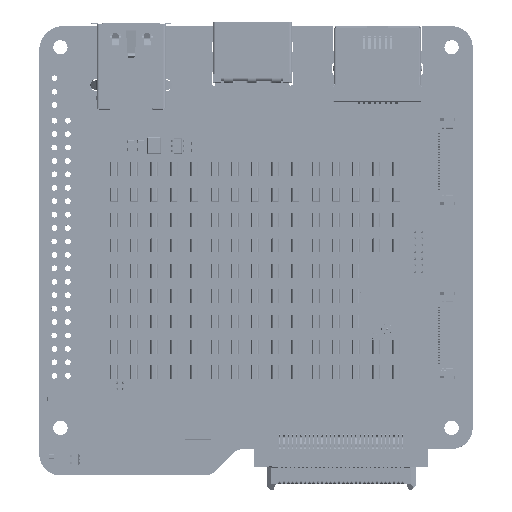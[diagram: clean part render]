
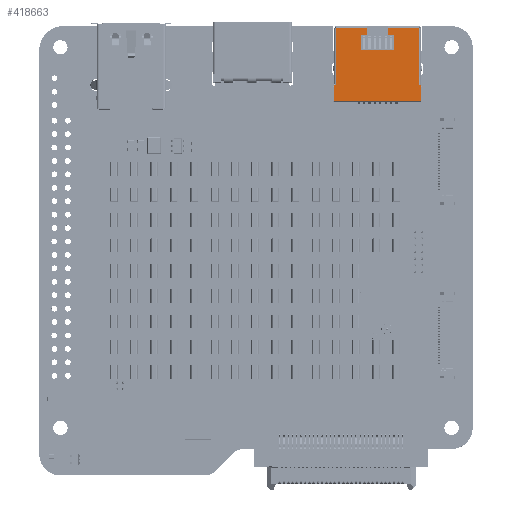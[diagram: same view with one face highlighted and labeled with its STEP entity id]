
A CAD part, top view. The second image highlights one B-rep face of the part: STEP entity #418663.
In plain terms, the highlighted planar face has unit normal (0, 0, 1).
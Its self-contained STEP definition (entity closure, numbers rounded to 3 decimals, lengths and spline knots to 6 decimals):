
#35980=LINE('',#677098,#79649);
#35984=LINE('',#677107,#79653);
#35987=LINE('',#677113,#79656);
#35990=LINE('',#677119,#79659);
#35993=LINE('',#677125,#79662);
#36129=LINE('',#677598,#79798);
#36134=LINE('',#677610,#79803);
#36347=LINE('',#678216,#80016);
#36355=LINE('',#678263,#80024);
#36371=LINE('',#678300,#80040);
#36378=LINE('',#678342,#80047);
#36394=LINE('',#678379,#80063);
#36410=LINE('',#678400,#80079);
#36411=LINE('',#678404,#80080);
#36413=LINE('',#678408,#80082);
#36415=LINE('',#678412,#80084);
#36416=LINE('',#678413,#80085);
#36417=LINE('',#678414,#80086);
#79649=VECTOR('',#551161,1.);
#79653=VECTOR('',#551167,1.);
#79656=VECTOR('',#551172,1.);
#79659=VECTOR('',#551177,1.);
#79662=VECTOR('',#551182,1.);
#79798=VECTOR('',#551634,1.);
#79803=VECTOR('',#551645,1.);
#80016=VECTOR('',#552214,1.);
#80024=VECTOR('',#552238,1.);
#80040=VECTOR('',#552274,1.);
#80047=VECTOR('',#552289,1.);
#80063=VECTOR('',#552325,1.);
#80079=VECTOR('',#552347,1.);
#80080=VECTOR('',#552354,1.);
#80082=VECTOR('',#552360,1.);
#80084=VECTOR('',#552366,1.);
#80085=VECTOR('',#552367,1.);
#80086=VECTOR('',#552368,1.);
#112247=PLANE('',#479691);
#174287=ORIENTED_EDGE('',*,*,#271387,.F.);
#174288=ORIENTED_EDGE('',*,*,#271142,.F.);
#174289=ORIENTED_EDGE('',*,*,#271146,.F.);
#174290=ORIENTED_EDGE('',*,*,#271149,.F.);
#174291=ORIENTED_EDGE('',*,*,#271152,.F.);
#174292=ORIENTED_EDGE('',*,*,#271155,.F.);
#174293=ORIENTED_EDGE('',*,*,#271380,.F.);
#174294=ORIENTED_EDGE('',*,*,#271754,.T.);
#174295=ORIENTED_EDGE('',*,*,#271718,.T.);
#174296=ORIENTED_EDGE('',*,*,#271752,.T.);
#174297=ORIENTED_EDGE('',*,*,#271736,.T.);
#174298=ORIENTED_EDGE('',*,*,#271759,.T.);
#174299=ORIENTED_EDGE('',*,*,#271675,.T.);
#174300=ORIENTED_EDGE('',*,*,#271760,.T.);
#174301=ORIENTED_EDGE('',*,*,#271707,.F.);
#174302=ORIENTED_EDGE('',*,*,#271757,.F.);
#174303=ORIENTED_EDGE('',*,*,#271689,.F.);
#174304=ORIENTED_EDGE('',*,*,#271761,.T.);
#271142=EDGE_CURVE('',#324678,#324679,#35980,.T.);
#271146=EDGE_CURVE('',#324682,#324678,#35984,.T.);
#271149=EDGE_CURVE('',#324684,#324682,#35987,.T.);
#271152=EDGE_CURVE('',#324686,#324684,#35990,.T.);
#271155=EDGE_CURVE('',#324688,#324686,#35993,.T.);
#271380=EDGE_CURVE('',#324867,#324688,#36129,.T.);
#271387=EDGE_CURVE('',#324679,#324872,#36134,.T.);
#271675=EDGE_CURVE('',#325039,#325040,#36347,.T.);
#271689=EDGE_CURVE('',#325048,#325049,#36355,.T.);
#271707=EDGE_CURVE('',#325058,#325059,#36371,.T.);
#271718=EDGE_CURVE('',#325068,#325069,#36378,.T.);
#271736=EDGE_CURVE('',#325079,#325078,#36394,.T.);
#271752=EDGE_CURVE('',#325069,#325079,#36410,.T.);
#271754=EDGE_CURVE('',#324867,#325068,#36411,.T.);
#271757=EDGE_CURVE('',#325049,#325058,#36413,.T.);
#271759=EDGE_CURVE('',#325078,#325039,#36415,.T.);
#271760=EDGE_CURVE('',#325040,#325059,#36416,.T.);
#271761=EDGE_CURVE('',#325048,#324872,#36417,.T.);
#324678=VERTEX_POINT('',#677097);
#324679=VERTEX_POINT('',#677099);
#324682=VERTEX_POINT('',#677106);
#324684=VERTEX_POINT('',#677112);
#324686=VERTEX_POINT('',#677118);
#324688=VERTEX_POINT('',#677124);
#324867=VERTEX_POINT('',#677597);
#324872=VERTEX_POINT('',#677611);
#325039=VERTEX_POINT('',#678217);
#325040=VERTEX_POINT('',#678218);
#325048=VERTEX_POINT('',#678264);
#325049=VERTEX_POINT('',#678265);
#325058=VERTEX_POINT('',#678299);
#325059=VERTEX_POINT('',#678301);
#325068=VERTEX_POINT('',#678343);
#325069=VERTEX_POINT('',#678344);
#325078=VERTEX_POINT('',#678378);
#325079=VERTEX_POINT('',#678380);
#371378=EDGE_LOOP('',(#174287,#174288,#174289,#174290,#174291,#174292,#174293,
#174294,#174295,#174296,#174297,#174298,#174299,#174300,#174301,#174302,
#174303,#174304));
#395242=FACE_BOUND('',#371378,.T.);
#418663=ADVANCED_FACE('',(#395242),#112247,.T.);
#479691=AXIS2_PLACEMENT_3D('',#678411,#552364,#552365);
#551161=DIRECTION('',(1.,0.,0.));
#551167=DIRECTION('',(0.,-1.,0.));
#551172=DIRECTION('',(-1.,0.,0.));
#551177=DIRECTION('',(0.,1.,0.));
#551182=DIRECTION('',(1.,0.,0.));
#551634=DIRECTION('',(0.,1.,0.));
#551645=DIRECTION('',(0.,-1.,0.));
#552214=DIRECTION('',(-1.,0.,0.));
#552238=DIRECTION('',(0.,1.,0.));
#552274=DIRECTION('',(-1.,0.,0.));
#552289=DIRECTION('',(0.,1.,0.));
#552325=DIRECTION('',(1.,0.,0.));
#552347=DIRECTION('',(0.,1.,0.));
#552354=DIRECTION('',(1.,0.,0.));
#552360=DIRECTION('',(0.,1.,0.));
#552364=DIRECTION('',(0.,0.,1.));
#552365=DIRECTION('',(1.,0.,0.));
#552366=DIRECTION('',(0.,1.,0.));
#552367=DIRECTION('',(0.,-1.,0.));
#552368=DIRECTION('',(1.,0.,0.));
#677097=CARTESIAN_POINT('',(-0.00315,-0.00545,0.008775));
#677098=CARTESIAN_POINT('',(-0.00315,-0.00545,0.008775));
#677099=CARTESIAN_POINT('',(-0.002,-0.00545,0.008775));
#677106=CARTESIAN_POINT('',(-0.00315,-0.00267,0.008775));
#677107=CARTESIAN_POINT('',(-0.00315,-0.00267,0.008775));
#677112=CARTESIAN_POINT('',(0.00315,-0.00267,0.008775));
#677113=CARTESIAN_POINT('',(0.00315,-0.00267,0.008775));
#677118=CARTESIAN_POINT('',(0.00315,-0.00545,0.008775));
#677119=CARTESIAN_POINT('',(0.00315,-0.00545,0.008775));
#677124=CARTESIAN_POINT('',(0.002,-0.00545,0.008775));
#677125=CARTESIAN_POINT('',(0.002,-0.00545,0.008775));
#677597=CARTESIAN_POINT('',(0.002,-0.00689,0.008775));
#677598=CARTESIAN_POINT('',(0.002,-0.00689,0.008775));
#677610=CARTESIAN_POINT('',(-0.002,-0.00545,0.008775));
#677611=CARTESIAN_POINT('',(-0.002,-0.00689,0.008775));
#678216=CARTESIAN_POINT('',(0.00815,0.00689,0.008775));
#678217=CARTESIAN_POINT('',(0.00815,0.00689,0.008775));
#678218=CARTESIAN_POINT('',(-0.00815,0.00689,0.008775));
#678263=CARTESIAN_POINT('',(-0.00789,-0.00689,0.008775));
#678264=CARTESIAN_POINT('',(-0.00789,-0.00689,0.008775));
#678265=CARTESIAN_POINT('',(-0.00789,0.0039,0.008775));
#678299=CARTESIAN_POINT('',(-0.00789,0.003902,0.008775));
#678300=CARTESIAN_POINT('',(-0.00789,0.003902,0.008775));
#678301=CARTESIAN_POINT('',(-0.00815,0.003902,0.008775));
#678342=CARTESIAN_POINT('',(0.00789,-0.00689,0.008775));
#678343=CARTESIAN_POINT('',(0.00789,-0.00689,0.008775));
#678344=CARTESIAN_POINT('',(0.00789,0.0039,0.008775));
#678378=CARTESIAN_POINT('',(0.00815,0.003902,0.008775));
#678379=CARTESIAN_POINT('',(0.00789,0.003902,0.008775));
#678380=CARTESIAN_POINT('',(0.00789,0.003902,0.008775));
#678400=CARTESIAN_POINT('',(0.00789,0.0039,0.008775));
#678404=CARTESIAN_POINT('',(0.002,-0.00689,0.008775));
#678408=CARTESIAN_POINT('',(-0.00789,0.0039,0.008775));
#678411=CARTESIAN_POINT('',(0.,-0.00715,0.008775));
#678412=CARTESIAN_POINT('',(0.00815,0.003902,0.008775));
#678413=CARTESIAN_POINT('',(-0.00815,0.00689,0.008775));
#678414=CARTESIAN_POINT('',(-0.00789,-0.00689,0.008775));
